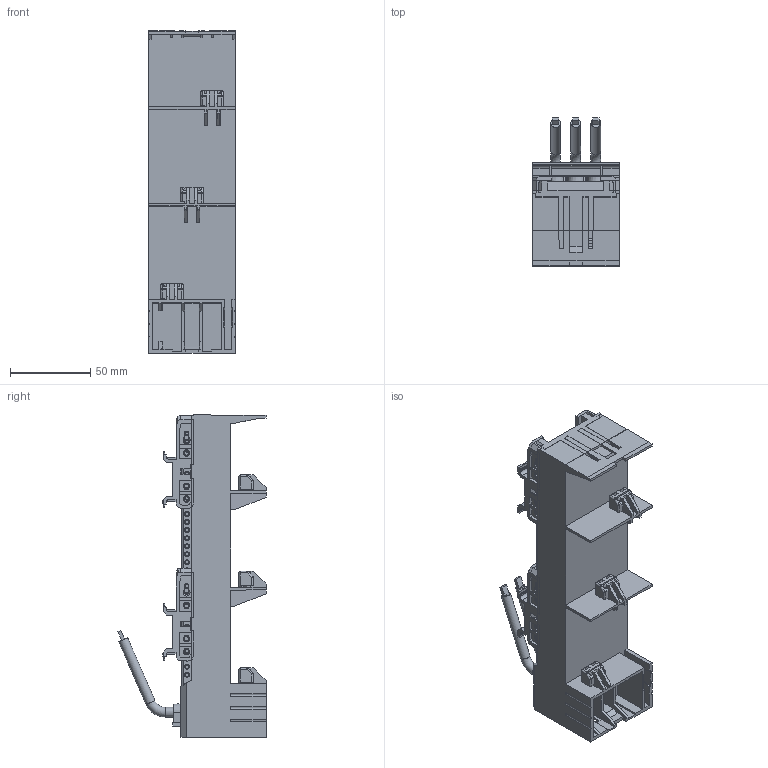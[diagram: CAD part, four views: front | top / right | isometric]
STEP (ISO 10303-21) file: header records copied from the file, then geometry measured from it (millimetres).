
FILE_DESCRIPTION (( 'STEP AP203' ), '1' );
FILE_NAME ('55365.STEP', '2021-08-18T05:25:44', ( '' ), ( '' ), 'SwSTEP 2.0', 'SolidWorks 2017', '' );
FILE_SCHEMA (( 'CONFIG_CONTROL_DESIGN' ));
Length unit declared in the file: millimetre
Products named in the file (2): 55365
Bounding box: 54.05 x 92.2 x 200.4 mm (x, y, z)
Volume: 329725 mm3; surface area: 94892.2 mm2
Topology: 10 solids, 27 shells, 2211 faces, 6030 edges, 4000 vertices
Faces by surface type: plane 1511, cylinder 405, cone 175, bspline 117, torus 3
Full cylindrical faces by diameter (mm): 1.988 x130, 2.6 x28, 2.982 x12, 3.479 x8, 4.2 x4, 5.169 x2, 5.964 x11, 6 x6
Entity records: 97064 total; most frequent: CARTESIAN_POINT 45207, ORIENTED_EDGE 10962, DIRECTION 9410, EDGE_CURVE 5481, VERTEX_POINT 3822, VECTOR 3814, LINE 3814, EDGE_LOOP 2801
